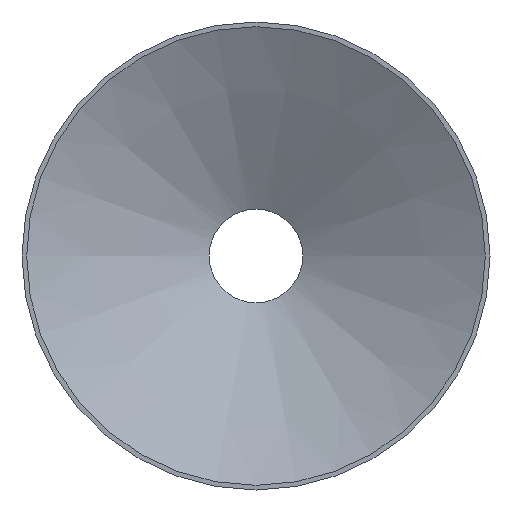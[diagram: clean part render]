
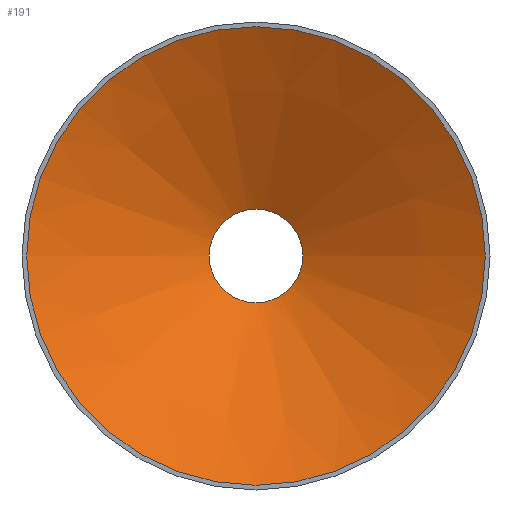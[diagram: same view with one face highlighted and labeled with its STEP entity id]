
A CAD part, front view. The second image highlights one B-rep face of the part: STEP entity #191.
In plain terms, the highlighted conical face has half-angle 62.85 degrees and reference radius 2.95 mm.
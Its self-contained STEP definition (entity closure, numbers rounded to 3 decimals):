
#8 = CARTESIAN_POINT ( 'NONE',  ( 0., 2., 0. ) ) ;
#10 = CONICAL_SURFACE ( 'NONE', #65, 2.95, 1.097 ) ;
#11 = DIRECTION ( 'NONE',  ( 0., -1., 0. ) ) ;
#14 = VERTEX_POINT ( 'NONE', #116 ) ;
#30 = CIRCLE ( 'NONE', #155, 1. ) ;
#44 = FACE_BOUND ( 'NONE', #208, .T. ) ;
#65 = AXIS2_PLACEMENT_3D ( 'NONE', #210, #11, #263 ) ;
#86 = DIRECTION ( 'NONE',  ( 1., 0., 0. ) ) ;
#88 = DIRECTION ( 'NONE',  ( 0., 1., 0. ) ) ;
#95 = DIRECTION ( 'NONE',  ( 1., 0., 0. ) ) ;
#97 = DIRECTION ( 'NONE',  ( 0., 1., 0. ) ) ;
#102 = ORIENTED_EDGE ( 'NONE', *, *, #106, .T. ) ;
#106 = EDGE_CURVE ( 'NONE', #14, #14, #30, .T. ) ;
#114 = AXIS2_PLACEMENT_3D ( 'NONE', #201, #97, #95 ) ;
#116 = CARTESIAN_POINT ( 'NONE',  ( 1., 2., 0. ) ) ;
#145 = VERTEX_POINT ( 'NONE', #273 ) ;
#155 = AXIS2_PLACEMENT_3D ( 'NONE', #8, #88, #86 ) ;
#170 = CIRCLE ( 'NONE', #114, 4.9 ) ;
#191 = ADVANCED_FACE ( 'NONE', ( #231, #44 ), #10, .F. ) ;
#201 = CARTESIAN_POINT ( 'NONE',  ( 0., 0., 0. ) ) ;
#208 = EDGE_LOOP ( 'NONE', ( #102 ) ) ;
#210 = CARTESIAN_POINT ( 'NONE',  ( 0., 1., 0. ) ) ;
#222 = EDGE_LOOP ( 'NONE', ( #228 ) ) ;
#228 = ORIENTED_EDGE ( 'NONE', *, *, #276, .F. ) ;
#231 = FACE_OUTER_BOUND ( 'NONE', #222, .T. ) ;
#263 = DIRECTION ( 'NONE',  ( -1., 0., 0. ) ) ;
#273 = CARTESIAN_POINT ( 'NONE',  ( 4.9, 0., 0. ) ) ;
#276 = EDGE_CURVE ( 'NONE', #145, #145, #170, .T. ) ;
